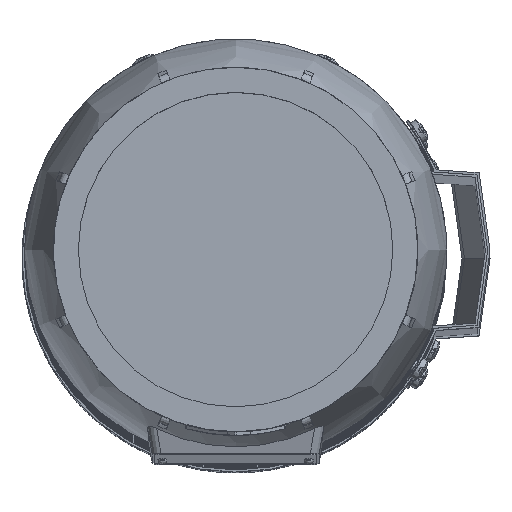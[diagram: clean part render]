
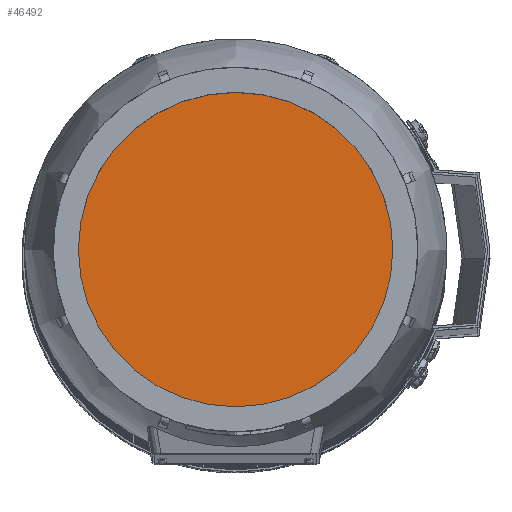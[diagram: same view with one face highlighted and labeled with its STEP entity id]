
A CAD part, top view. The second image highlights one B-rep face of the part: STEP entity #46492.
In plain terms, the highlighted planar face has unit normal (0, 0, 1) as drawn and (0, 1, 0) by its records, which use the part's own axes.
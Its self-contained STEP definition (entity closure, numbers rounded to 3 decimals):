
#9825=ORIENTED_EDGE('',*,*,#23881,.F.);
#23881=EDGE_CURVE('',#30909,#30909,#35639,.T.);
#30909=VERTEX_POINT('',#67124);
#35639=CIRCLE('',#49031,67.736);
#37762=EDGE_LOOP('',(#9825));
#41116=FACE_BOUND('',#37762,.T.);
#44488=PLANE('',#49030);
#46492=ADVANCED_FACE('',(#41116),#44488,.F.);
#49030=AXIS2_PLACEMENT_3D('',#67122,#53629,#53630);
#49031=AXIS2_PLACEMENT_3D('',#67123,#53631,#53632);
#53629=DIRECTION('',(0.,-1.,0.));
#53630=DIRECTION('',(0.,0.,-1.));
#53631=DIRECTION('',(0.,-1.,0.));
#53632=DIRECTION('',(0.,0.,-1.));
#67122=CARTESIAN_POINT('',(0.,154.,0.));
#67123=CARTESIAN_POINT('',(0.,154.,0.));
#67124=CARTESIAN_POINT('',(0.,154.,-67.736));
